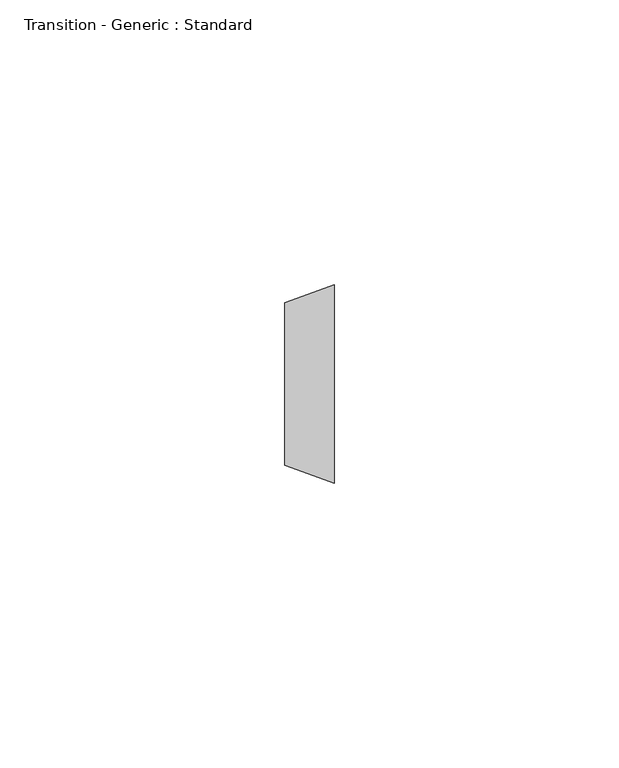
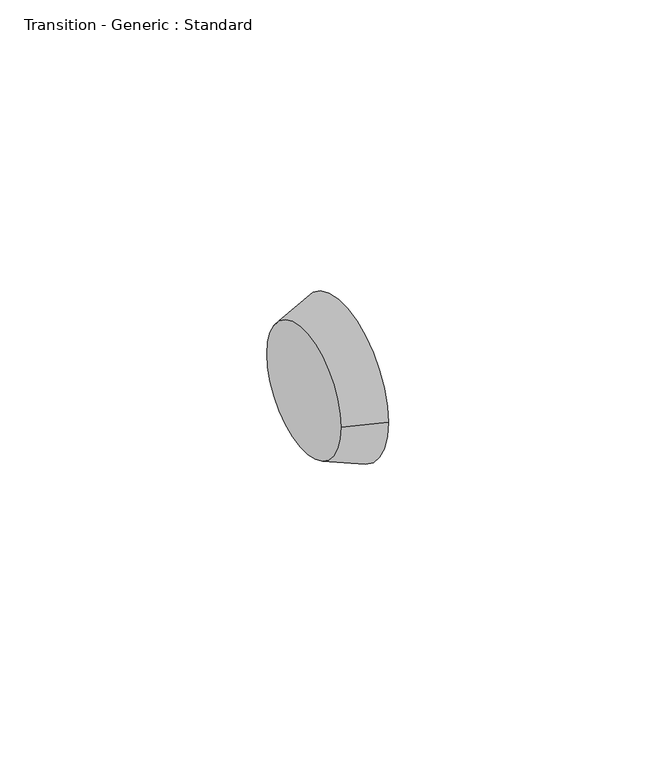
"""IFC4 building model written with IfcOpenShell, lengths in millimetres: pipe fitting geometry, Transition - Generic : Standard."""

from ifc_helpers import new_model, si_unit, frame, origin, place, context, project, spatial, polyline, circle_curve, source, transform, mapped, element, save
from ifc_brep_helpers import plane_surface, revolved_surface, advanced_brep


def transition_generic_standard_64286003(model_context):
    return source(origin(), model_context, "Body", "AdvancedBrep", [
        advanced_brep(
        [(8.73125, 17.4625, 0.0), (8.73125, -17.4625, 0.0), (0.0, 14.2875, 0.0), (0.0, -14.2875, 0.0)],
        [
            (0, 1, circle_curve(frame((8.73125, 0.0, 0.0), z_axis=(1.0, 0.0, 0.0), x_axis=(0.0, -1.0, 0.0)), 17.4625)),
            (1, 0, circle_curve(frame((8.73125, 0.0, 0.0), z_axis=(1.0, 0.0, 0.0), x_axis=(0.0, 1.0, 0.0)), 17.4625)),
            (2, 3, circle_curve(frame((0.0, 0.0, 0.0), z_axis=(-1.0, 0.0, 0.0), x_axis=(0.0, 1.0, 0.0)), 14.2875)),
            (3, 2, circle_curve(frame((0.0, 0.0, 0.0), z_axis=(-1.0, 0.0, 0.0), x_axis=(0.0, -1.0, 0.0)), 14.2875)),
            (2, 0),
            (1, 3),
        ],
        [
            plane_surface(frame((8.73125, 0.0, 0.0), z_axis=(1.0, 0.0, 0.0), x_axis=(0.0, 0.0, -1.0))),
            plane_surface(frame((0.0, 0.0, 0.0), z_axis=(-1.0, 0.0, 0.0), x_axis=(0.0, 0.0, -1.0))),
            revolved_surface(polyline([(0.0, 14.2875, 0.0), (8.731249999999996, 17.4625, 0.0)]), (-39.290625, 0.0, 0.0), (1.0, 0.0, 0.0)),
            revolved_surface(polyline([(0.0, -14.2875, 0.0), (8.731249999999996, -17.4625, 0.0)]), (-39.290625, 0.0, 0.0), (1.0, 0.0, 0.0)),
        ],
        [
            (0, [[1, 2]]),
            (1, [[3, 4]]),
            (2, [[5, -2, 6, -3]]),
            (3, [[-6, -1, -5, -4]]),
        ],
    ),
    ])


if __name__ == "__main__":
    model = new_model("IFC4")
    model_context = context("Model", 3, world=origin())
    ifc_project = project(units=[si_unit("LENGTHUNIT", "METRE", prefix="MILLI")], contexts=[model_context])
    site = spatial("IfcSite", under=ifc_project)
    building = spatial("IfcBuilding", under=site)
    placement = place(None, origin())
    transition_generic_standard_shape = transition_generic_standard_64286003(model_context)
    element("IfcPipeFitting", 1, ObjectType="Transition - Generic : Standard", at=placement, inside=building, context=model_context, shape_type="MappedRepresentation", body=[
        mapped(transition_generic_standard_shape, transform((0.0, 0.0, 0.0), x_axis=(1.0, 0.0, 0.0), y_axis=(0.0, 1.0, 0.0), z_axis=(0.0, 0.0, 1.0))),
    ])
    save(model, "model.ifc")
